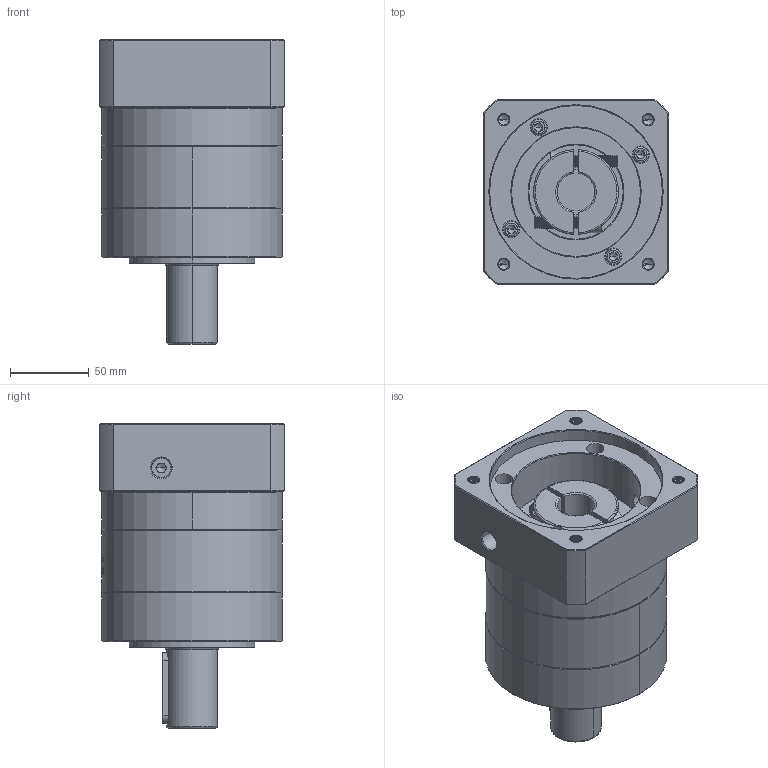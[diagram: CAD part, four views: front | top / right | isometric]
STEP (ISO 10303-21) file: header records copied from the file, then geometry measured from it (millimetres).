
FILE_DESCRIPTION (( 'STEP AP214' ), '1' );
FILE_NAME ('ZE120A-D32-L1-24-110-130-M8.step', '2023-03-09T06:27:26', ( '' ), ( '' ), 'SwSTEP 2.0', 'SolidWorks 2016', '' );
FILE_SCHEMA (( 'AUTOMOTIVE_DESIGN' ));
Length unit declared in the file: millimetre
Products named in the file (1): ZE120A-D32-L1-24-110-130-M8
Bounding box: 118 x 118 x 193.5 mm (x, y, z)
Volume: 1398612.4 mm3; surface area: 161645 mm2
Topology: 6 solids, 6 shells, 2028 faces, 5337 edges, 3406 vertices
Faces by surface type: plane 836, cylinder 520, bspline 333, cone 319, torus 20
Entity records: 118477 total; most frequent: CARTESIAN_POINT 50690, ORIENTED_EDGE 10598, DIRECTION 7974, EDGE_CURVE 5299, VERTEX_POINT 3406, LINE 2796, VECTOR 2796, AXIS2_PLACEMENT_3D 2589
